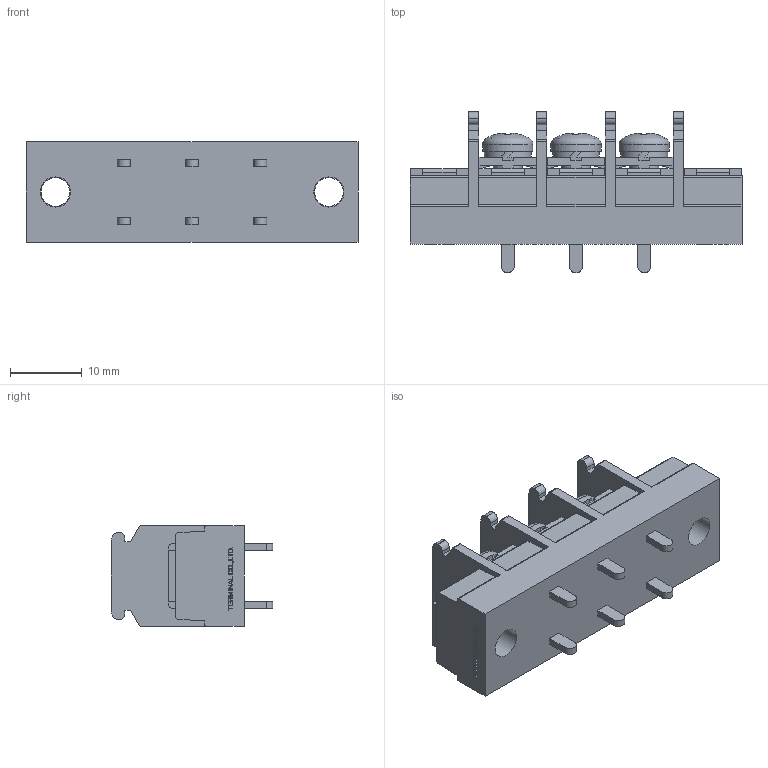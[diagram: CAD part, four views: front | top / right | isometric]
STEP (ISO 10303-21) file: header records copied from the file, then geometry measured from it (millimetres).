
FILE_DESCRIPTION(/* description */ ('Alibre Inc.'),/* implementation_level */ '2;1');
FILE_NAME(/* name */ 'export-2F413D32-724F-4826-9CE4-F436978877B6',/* time_stamp */ '2021-02-13T17:07:04+09:00',/* author */ (''),/* organization */ (''),/* preprocessor_version */ 'ST-DEVELOPER v17',/* originating_system */ 'Alibre',/* authorisation */ '');
FILE_SCHEMA (('CONFIG_CONTROL_DESIGN'));
Length unit declared in the file: millimetre
Bounding box: 46.2 x 22.5 x 14 mm (x, y, z)
Volume: 7085.2 mm3; surface area: 4883.5 mm2
Topology: 1 solids, 20 shells, 817 faces, 2227 edges, 1471 vertices
Faces by surface type: plane 602, bspline 104, cylinder 87, cone 15, torus 6, sphere 3
Full cylindrical faces by diameter (mm): 4 x8, 4.2 x2, 7 x3
Entity records: 24682 total; most frequent: CARTESIAN_POINT 5419, ORIENTED_EDGE 4394, DIRECTION 2969, EDGE_CURVE 2197, VECTOR 1643, LINE 1643, VERTEX_POINT 1463, AXIS2_PLACEMENT_3D 945
